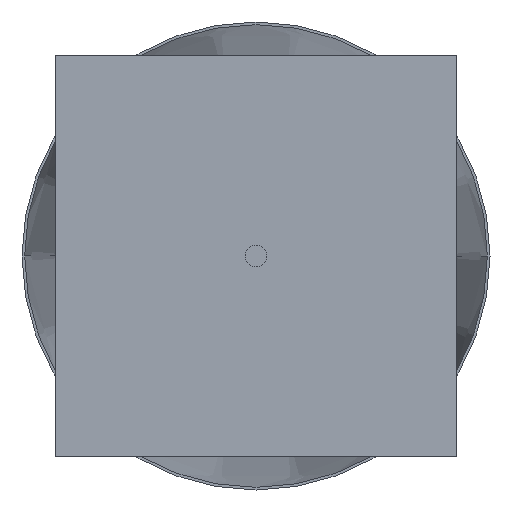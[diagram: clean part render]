
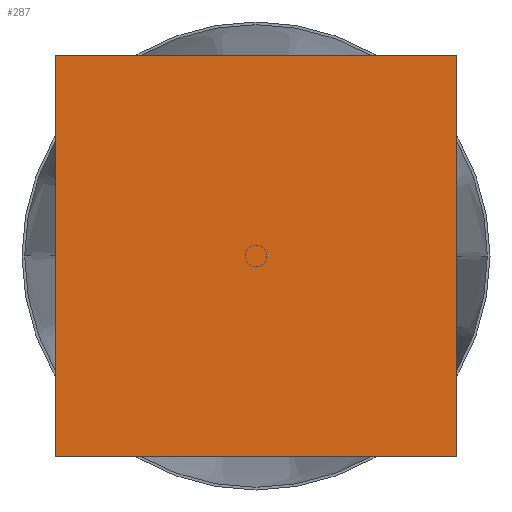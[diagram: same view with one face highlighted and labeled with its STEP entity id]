
A CAD part, front view. The second image highlights one B-rep face of the part: STEP entity #287.
In plain terms, the highlighted planar face has unit normal (0, -1, 0).
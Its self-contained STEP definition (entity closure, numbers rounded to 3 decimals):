
#24 = LINE ( 'NONE', #482, #405 ) ;
#35 = VERTEX_POINT ( 'NONE', #593 ) ;
#58 = CARTESIAN_POINT ( 'NONE',  ( -150., 1., 150. ) ) ;
#92 = EDGE_CURVE ( 'NONE', #185, #461, #202, .T. ) ;
#122 = LINE ( 'NONE', #209, #325 ) ;
#142 = PLANE ( 'NONE',  #411 ) ;
#173 = VECTOR ( 'NONE', #253, 1000. ) ;
#185 = VERTEX_POINT ( 'NONE', #58 ) ;
#191 = DIRECTION ( 'NONE',  ( 0., 0., -1. ) ) ;
#200 = FACE_OUTER_BOUND ( 'NONE', #235, .T. ) ;
#202 = LINE ( 'NONE', #208, #494 ) ;
#208 = CARTESIAN_POINT ( 'NONE',  ( -150., 1., -150. ) ) ;
#209 = CARTESIAN_POINT ( 'NONE',  ( 150., 1., 150. ) ) ;
#235 = EDGE_LOOP ( 'NONE', ( #516, #292, #524, #415 ) ) ;
#253 = DIRECTION ( 'NONE',  ( 0., 0., 1. ) ) ;
#287 = ADVANCED_FACE ( 'NONE', ( #200 ), #142, .T. ) ;
#292 = ORIENTED_EDGE ( 'NONE', *, *, #693, .T. ) ;
#314 = DIRECTION ( 'NONE',  ( 0., -1., 0. ) ) ;
#325 = VECTOR ( 'NONE', #722, 1000. ) ;
#373 = DIRECTION ( 'NONE',  ( 1., 0., 0. ) ) ;
#405 = VECTOR ( 'NONE', #373, 1000. ) ;
#411 = AXIS2_PLACEMENT_3D ( 'NONE', #433, #314, #191 ) ;
#415 = ORIENTED_EDGE ( 'NONE', *, *, #441, .T. ) ;
#433 = CARTESIAN_POINT ( 'NONE',  ( 0., 1., 0. ) ) ;
#441 = EDGE_CURVE ( 'NONE', #705, #185, #122, .T. ) ;
#456 = CARTESIAN_POINT ( 'NONE',  ( -150., 1., -150. ) ) ;
#461 = VERTEX_POINT ( 'NONE', #456 ) ;
#482 = CARTESIAN_POINT ( 'NONE',  ( 150., 1., -150. ) ) ;
#494 = VECTOR ( 'NONE', #551, 1000. ) ;
#516 = ORIENTED_EDGE ( 'NONE', *, *, #92, .T. ) ;
#524 = ORIENTED_EDGE ( 'NONE', *, *, #681, .T. ) ;
#536 = CARTESIAN_POINT ( 'NONE',  ( 150., 1., -150. ) ) ;
#551 = DIRECTION ( 'NONE',  ( 0., 0., -1. ) ) ;
#558 = LINE ( 'NONE', #536, #173 ) ;
#593 = CARTESIAN_POINT ( 'NONE',  ( 150., 1., -150. ) ) ;
#657 = CARTESIAN_POINT ( 'NONE',  ( 150., 1., 150. ) ) ;
#681 = EDGE_CURVE ( 'NONE', #35, #705, #558, .T. ) ;
#693 = EDGE_CURVE ( 'NONE', #461, #35, #24, .T. ) ;
#705 = VERTEX_POINT ( 'NONE', #657 ) ;
#722 = DIRECTION ( 'NONE',  ( -1., 0., 0. ) ) ;
